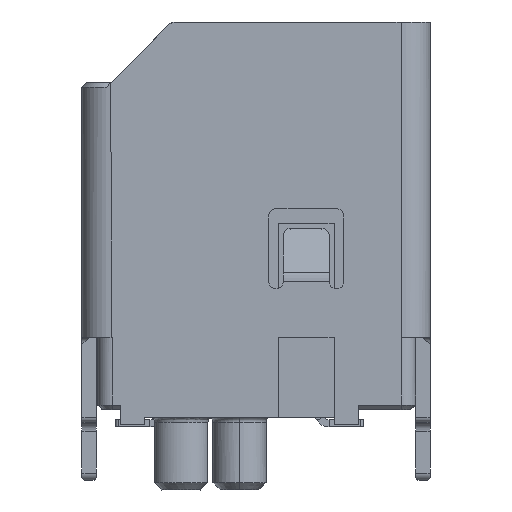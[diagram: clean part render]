
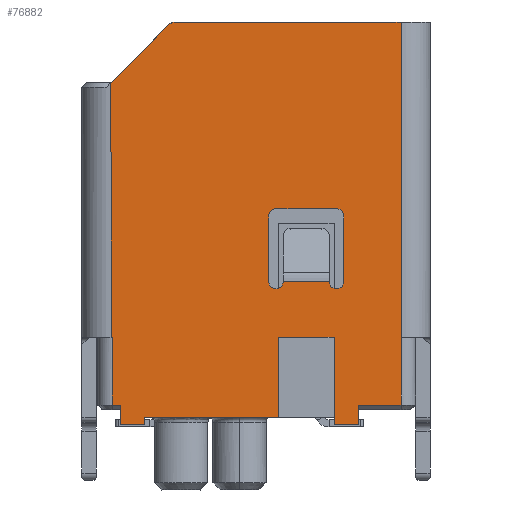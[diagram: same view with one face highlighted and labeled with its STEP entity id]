
A CAD part, left-side view. The second image highlights one B-rep face of the part: STEP entity #76882.
In plain terms, the highlighted planar face has unit normal (-1, 0, 0).
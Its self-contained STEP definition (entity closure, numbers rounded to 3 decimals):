
#1834=DIRECTION('',(0.,0.,1.));
#1835=VECTOR('',#1834,6.5);
#1836=CARTESIAN_POINT('',(-13.5,-3.33,1.85));
#1837=LINE('',#1836,#1835);
#1842=DIRECTION('',(0.,-0.707,0.707));
#1843=VECTOR('',#1842,1.685);
#1844=CARTESIAN_POINT('',(-13.5,2.65,7.1));
#1845=LINE('',#1844,#1843);
#1846=CARTESIAN_POINT('',(-13.5,1.317,8.15));
#1847=DIRECTION('',(1.,0.,0.));
#1848=DIRECTION('',(0.,0.707,0.707));
#1849=AXIS2_PLACEMENT_3D('',#1846,#1847,#1848);
#1851=DIRECTION('',(0.,0.,-1.));
#1852=VECTOR('',#1851,1.4);
#1853=CARTESIAN_POINT('',(-13.5,-3.33,1.85));
#1854=LINE('',#1853,#1852);
#1855=DIRECTION('',(0.,0.,-1.));
#1856=VECTOR('',#1855,0.4);
#1857=CARTESIAN_POINT('',(-13.5,-2.45,0.45));
#1858=LINE('',#1857,#1856);
#1859=DIRECTION('',(0.,1.,0.));
#1860=VECTOR('',#1859,0.5);
#1861=CARTESIAN_POINT('',(-13.5,-2.45,0.05));
#1862=LINE('',#1861,#1860);
#1863=DIRECTION('',(0.,0.,1.));
#1864=VECTOR('',#1863,1.8);
#1865=CARTESIAN_POINT('',(-13.5,-1.95,0.05));
#1866=LINE('',#1865,#1864);
#1867=DIRECTION('',(0.,1.,0.));
#1868=VECTOR('',#1867,1.15);
#1869=CARTESIAN_POINT('',(-13.5,-1.95,1.85));
#1870=LINE('',#1869,#1868);
#1871=DIRECTION('',(0.,0.,-1.));
#1872=VECTOR('',#1871,1.65);
#1873=CARTESIAN_POINT('',(-13.5,-0.8,1.85));
#1874=LINE('',#1873,#1872);
#1875=DIRECTION('',(0.,1.,0.));
#1876=VECTOR('',#1875,0.17);
#1877=CARTESIAN_POINT('',(-13.5,2.45,0.45));
#1878=LINE('',#1877,#1876);
#1879=DIRECTION('',(0.,0.,1.));
#1880=VECTOR('',#1879,1.35);
#1881=CARTESIAN_POINT('',(-13.5,-2.15,3.));
#1882=LINE('',#1881,#1880);
#1883=CARTESIAN_POINT('',(-13.5,-2.,4.35));
#1884=DIRECTION('',(-1.,0.,0.));
#1885=DIRECTION('',(0.,-1.,0.));
#1886=AXIS2_PLACEMENT_3D('',#1883,#1884,#1885);
#1888=DIRECTION('',(0.,1.,0.));
#1889=VECTOR('',#1888,1.25);
#1890=CARTESIAN_POINT('',(-13.5,-2.,4.5));
#1891=LINE('',#1890,#1889);
#1892=CARTESIAN_POINT('',(-13.5,-0.75,4.35));
#1893=DIRECTION('',(-1.,0.,0.));
#1894=DIRECTION('',(0.,0.,1.));
#1895=AXIS2_PLACEMENT_3D('',#1892,#1893,#1894);
#1897=DIRECTION('',(0.,0.,-1.));
#1898=VECTOR('',#1897,1.35);
#1899=CARTESIAN_POINT('',(-13.5,-0.6,4.35));
#1900=LINE('',#1899,#1898);
#1901=CARTESIAN_POINT('',(-13.5,-0.75,3.));
#1902=DIRECTION('',(-1.,0.,0.));
#1903=DIRECTION('',(0.,1.,0.));
#1904=AXIS2_PLACEMENT_3D('',#1901,#1902,#1903);
#1906=CARTESIAN_POINT('',(-13.5,-2.,3.));
#1907=DIRECTION('',(-1.,0.,0.));
#1908=DIRECTION('',(0.,1.,0.));
#1909=AXIS2_PLACEMENT_3D('',#1906,#1907,#1908);
#1911=CARTESIAN_POINT('',(-13.5,2.649,1.85));
#1912=CARTESIAN_POINT('',(-13.5,2.646,1.85));
#1913=CARTESIAN_POINT('',(-13.5,2.64,1.85));
#1914=CARTESIAN_POINT('',(-13.5,2.63,1.85));
#1915=CARTESIAN_POINT('',(-13.5,2.623,1.85));
#1916=CARTESIAN_POINT('',(-13.5,2.62,1.85));
#1918=DIRECTION('',(0.,0.,-1.));
#1919=VECTOR('',#1918,1.4);
#1920=CARTESIAN_POINT('',(-13.5,2.62,1.85));
#1921=LINE('',#1920,#1919);
#1943=DIRECTION('',(0.,0.,-1.));
#1944=VECTOR('',#1943,0.4);
#1945=CARTESIAN_POINT('',(-13.5,2.45,0.45));
#1946=LINE('',#1945,#1944);
#1955=DIRECTION('',(0.,-1.,0.));
#1956=VECTOR('',#1955,0.5);
#1957=CARTESIAN_POINT('',(-13.5,2.45,0.05));
#1958=LINE('',#1957,#1956);
#1963=DIRECTION('',(0.,0.,1.));
#1964=VECTOR('',#1963,0.15);
#1965=CARTESIAN_POINT('',(-13.5,1.95,0.05));
#1966=LINE('',#1965,#1964);
#1983=DIRECTION('',(0.,-1.,0.));
#1984=VECTOR('',#1983,2.75);
#1985=CARTESIAN_POINT('',(-13.5,1.95,0.2));
#1986=LINE('',#1985,#1984);
#2069=DIRECTION('',(0.,-1.,0.));
#2070=VECTOR('',#2069,0.88);
#2071=CARTESIAN_POINT('',(-13.5,-2.45,0.45));
#2072=LINE('',#2071,#2070);
#39410=DIRECTION('',(0.,1.,0.));
#39411=VECTOR('',#39410,4.647);
#39412=CARTESIAN_POINT('',(-13.5,-3.33,8.35));
#39413=LINE('',#39412,#39411);
#39459=DIRECTION('',(0.,0.,-1.));
#39460=VECTOR('',#39459,5.25);
#39461=CARTESIAN_POINT('',(-13.5,2.65,7.1));
#39462=LINE('',#39461,#39460);
#40323=DIRECTION('',(0.,1.,0.));
#40324=VECTOR('',#40323,0.95);
#40325=CARTESIAN_POINT('',(-13.5,-1.85,3.));
#40326=LINE('',#40325,#40324);
#58031=CARTESIAN_POINT('',(-13.5,-3.33,1.85));
#58032=VERTEX_POINT('',#58031);
#58035=CARTESIAN_POINT('',(-13.5,-3.33,0.45));
#58036=VERTEX_POINT('',#58035);
#66529=CARTESIAN_POINT('',(-13.5,-1.95,1.85));
#66530=VERTEX_POINT('',#66529);
#66531=CARTESIAN_POINT('',(-13.5,-1.95,0.05));
#66532=VERTEX_POINT('',#66531);
#66543=CARTESIAN_POINT('',(-13.5,-0.8,1.85));
#66544=VERTEX_POINT('',#66543);
#66579=CARTESIAN_POINT('',(-13.5,-3.33,8.35));
#66580=VERTEX_POINT('',#66579);
#68343=CARTESIAN_POINT('',(-13.5,2.62,1.85));
#68344=CARTESIAN_POINT('',(-13.5,2.62,
0.45));
#68345=VERTEX_POINT('',#68343);
#68346=VERTEX_POINT('',#68344);
#68347=VERTEX_POINT('',#1911);
#68348=CARTESIAN_POINT('',(-13.5,2.65,7.1));
#68349=VERTEX_POINT('',#68348);
#68350=CARTESIAN_POINT('',(-13.5,1.459,8.291));
#68351=VERTEX_POINT('',#68350);
#68352=CARTESIAN_POINT('',(-13.5,1.317,8.35));
#68353=VERTEX_POINT('',#68352);
#68354=CARTESIAN_POINT('',(-13.5,-2.45,0.45));
#68355=VERTEX_POINT('',#68354);
#68356=CARTESIAN_POINT('',(-13.5,-2.45,0.05));
#68357=VERTEX_POINT('',#68356);
#68358=CARTESIAN_POINT('',(-13.5,-0.8,0.2));
#68359=VERTEX_POINT('',#68358);
#68360=CARTESIAN_POINT('',(-13.5,1.95,0.2));
#68361=VERTEX_POINT('',#68360);
#68362=CARTESIAN_POINT('',(-13.5,1.95,0.05));
#68363=VERTEX_POINT('',#68362);
#68364=CARTESIAN_POINT('',(-13.5,2.45,0.05));
#68365=VERTEX_POINT('',#68364);
#68366=CARTESIAN_POINT('',(-13.5,2.45,0.45));
#68367=VERTEX_POINT('',#68366);
#68368=CARTESIAN_POINT('',(-13.5,-2.15,3.));
#68369=CARTESIAN_POINT('',(-13.5,-2.15,4.35));
#68370=VERTEX_POINT('',#68368);
#68371=VERTEX_POINT('',#68369);
#68372=CARTESIAN_POINT('',(-13.5,-2.,4.5));
#68373=VERTEX_POINT('',#68372);
#68374=CARTESIAN_POINT('',(-13.5,-0.75,4.5));
#68375=VERTEX_POINT('',#68374);
#68376=CARTESIAN_POINT('',(-13.5,-0.6,4.35));
#68377=VERTEX_POINT('',#68376);
#68378=CARTESIAN_POINT('',(-13.5,-0.6,3.));
#68379=VERTEX_POINT('',#68378);
#68380=CARTESIAN_POINT('',(-13.5,-0.9,3.));
#68381=VERTEX_POINT('',#68380);
#68382=CARTESIAN_POINT('',(-13.5,-1.85,3.));
#68383=VERTEX_POINT('',#68382);
#76821=CARTESIAN_POINT('',(-13.5,0.,0.));
#76822=DIRECTION('',(1.,0.,0.));
#76823=DIRECTION('',(0.,1.,0.));
#76824=AXIS2_PLACEMENT_3D('',#76821,#76822,#76823);
#76825=PLANE('',#76824);
#76827=ORIENTED_EDGE('',*,*,#76826,.F.);
#76829=ORIENTED_EDGE('',*,*,#76828,.F.);
#76831=ORIENTED_EDGE('',*,*,#76830,.F.);
#76833=ORIENTED_EDGE('',*,*,#76832,.T.);
#76835=ORIENTED_EDGE('',*,*,#76834,.T.);
#76837=ORIENTED_EDGE('',*,*,#76836,.F.);
#76838=ORIENTED_EDGE('',*,*,#76810,.F.);
#76839=ORIENTED_EDGE('',*,*,#74875,.T.);
#76841=ORIENTED_EDGE('',*,*,#76840,.F.);
#76843=ORIENTED_EDGE('',*,*,#76842,.T.);
#76845=ORIENTED_EDGE('',*,*,#76844,.T.);
#76847=ORIENTED_EDGE('',*,*,#76846,.T.);
#76849=ORIENTED_EDGE('',*,*,#76848,.T.);
#76851=ORIENTED_EDGE('',*,*,#76850,.T.);
#76853=ORIENTED_EDGE('',*,*,#76852,.F.);
#76855=ORIENTED_EDGE('',*,*,#76854,.F.);
#76857=ORIENTED_EDGE('',*,*,#76856,.F.);
#76859=ORIENTED_EDGE('',*,*,#76858,.F.);
#76861=ORIENTED_EDGE('',*,*,#76860,.T.);
#76862=EDGE_LOOP('',(#76827,#76829,#76831,#76833,#76835,#76837,#76838,#76839,
#76841,#76843,#76845,#76847,#76849,#76851,#76853,#76855,#76857,#76859,#76861));
#76863=FACE_OUTER_BOUND('',#76862,.F.);
#76865=ORIENTED_EDGE('',*,*,#76864,.T.);
#76867=ORIENTED_EDGE('',*,*,#76866,.T.);
#76869=ORIENTED_EDGE('',*,*,#76868,.T.);
#76871=ORIENTED_EDGE('',*,*,#76870,.T.);
#76873=ORIENTED_EDGE('',*,*,#76872,.T.);
#76875=ORIENTED_EDGE('',*,*,#76874,.T.);
#76877=ORIENTED_EDGE('',*,*,#76876,.F.);
#76879=ORIENTED_EDGE('',*,*,#76878,.T.);
#76880=EDGE_LOOP('',(#76865,#76867,#76869,#76871,#76873,#76875,#76877,#76879));
#76881=FACE_BOUND('',#76880,.F.);
#76882=ADVANCED_FACE('',(#76863,#76881),#76825,.F.);
#1850=CIRCLE('',#1849,0.2);
#1887=CIRCLE('',#1886,0.15);
#1896=CIRCLE('',#1895,0.15);
#1905=CIRCLE('',#1904,0.15);
#1910=CIRCLE('',#1909,0.15);
#1917=B_SPLINE_CURVE_WITH_KNOTS('',3,(#1911,#1912,#1913,#1914,#1915,#1916),
.UNSPECIFIED.,.F.,.F.,(4,1,1,4),(0.,0.333,0.667,1.),
.UNSPECIFIED.);
#74875=EDGE_CURVE('',#58032,#58036,#1854,.T.);
#76810=EDGE_CURVE('',#58032,#66580,#1837,.T.);
#76826=EDGE_CURVE('',#68345,#68346,#1921,.T.);
#76828=EDGE_CURVE('',#68347,#68345,#1917,.T.);
#76830=EDGE_CURVE('',#68349,#68347,#39462,.T.);
#76832=EDGE_CURVE('',#68349,#68351,#1845,.T.);
#76834=EDGE_CURVE('',#68351,#68353,#1850,.T.);
#76836=EDGE_CURVE('',#66580,#68353,#39413,.T.);
#76840=EDGE_CURVE('',#68355,#58036,#2072,.T.);
#76842=EDGE_CURVE('',#68355,#68357,#1858,.T.);
#76844=EDGE_CURVE('',#68357,#66532,#1862,.T.);
#76846=EDGE_CURVE('',#66532,#66530,#1866,.T.);
#76848=EDGE_CURVE('',#66530,#66544,#1870,.T.);
#76850=EDGE_CURVE('',#66544,#68359,#1874,.T.);
#76852=EDGE_CURVE('',#68361,#68359,#1986,.T.);
#76854=EDGE_CURVE('',#68363,#68361,#1966,.T.);
#76856=EDGE_CURVE('',#68365,#68363,#1958,.T.);
#76858=EDGE_CURVE('',#68367,#68365,#1946,.T.);
#76860=EDGE_CURVE('',#68367,#68346,#1878,.T.);
#76864=EDGE_CURVE('',#68370,#68371,#1882,.T.);
#76866=EDGE_CURVE('',#68371,#68373,#1887,.T.);
#76868=EDGE_CURVE('',#68373,#68375,#1891,.T.);
#76870=EDGE_CURVE('',#68375,#68377,#1896,.T.);
#76872=EDGE_CURVE('',#68377,#68379,#1900,.T.);
#76874=EDGE_CURVE('',#68379,#68381,#1905,.T.);
#76876=EDGE_CURVE('',#68383,#68381,#40326,.T.);
#76878=EDGE_CURVE('',#68383,#68370,#1910,.T.);
